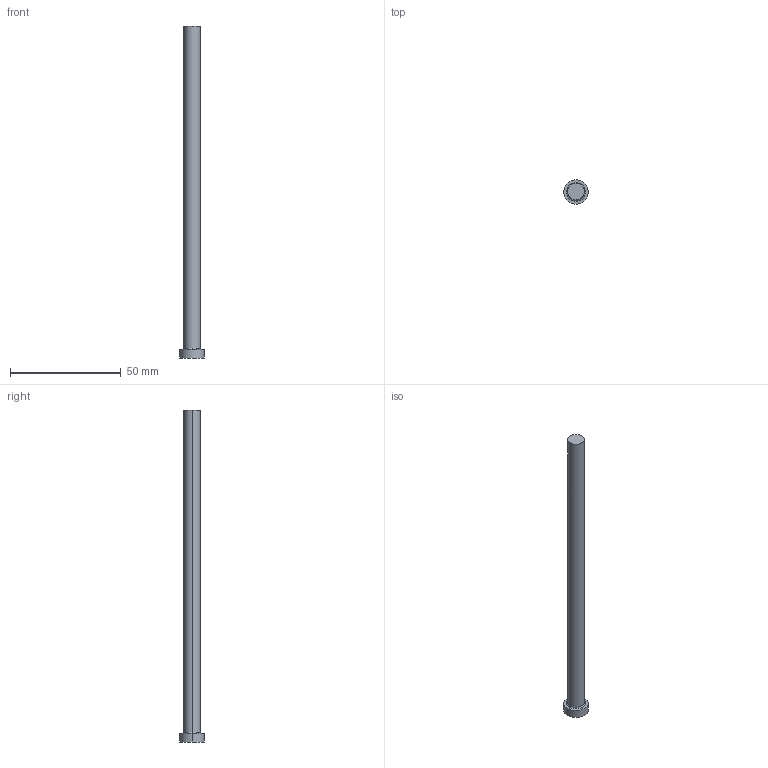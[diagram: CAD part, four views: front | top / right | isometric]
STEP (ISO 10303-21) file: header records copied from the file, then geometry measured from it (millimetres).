
FILE_DESCRIPTION (( 'STEP AP214' ), '1' );
FILE_NAME ('EPH7.6-150.step', '2024-04-11T21:15:00', ( '' ), ( '' ), 'SwSTEP 2.0', 'SolidWorks 2017', '' );
FILE_SCHEMA (( 'AUTOMOTIVE_DESIGN' ));
Length unit declared in the file: millimetre
Products named in the file (1): EPH7.6-150
Bounding box: 11 x 11 x 150 mm (x, y, z)
Volume: 7004.7 mm3; surface area: 3809.2 mm2
Topology: 1 solids, 1 shells, 9 faces, 16 edges, 10 vertices
Faces by surface type: cylinder 4, plane 3, torus 2
Entity records: 260 total; most frequent: DIRECTION 48, CARTESIAN_POINT 36, ORIENTED_EDGE 32, AXIS2_PLACEMENT_3D 22, EDGE_CURVE 16, CIRCLE 12, VERTEX_POINT 10, EDGE_LOOP 10
